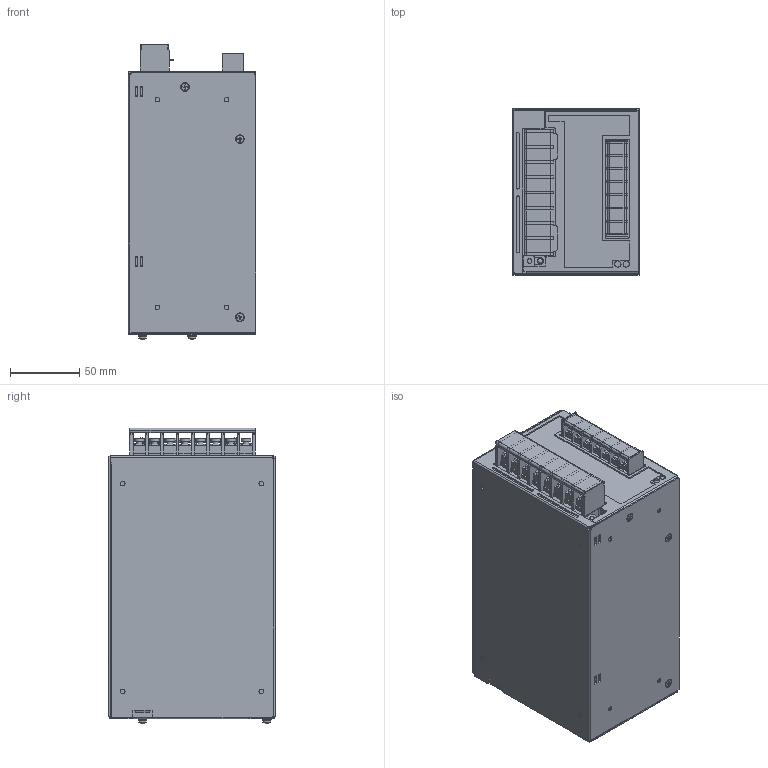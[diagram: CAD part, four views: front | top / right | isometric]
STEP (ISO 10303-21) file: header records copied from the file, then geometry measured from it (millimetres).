
FILE_DESCRIPTION (( 'STEP AP214' ), '1' );
FILE_NAME ('SWS600_OUTLINE.STEP', '2006-09-06T00:48:00', ( ' ' ), ( ' ' ), 'SwSTEP 2.0', 'SolidWorks 2006104', '' );
FILE_SCHEMA (( 'AUTOMOTIVE_DESIGN' ));
Length unit declared in the file: millimetre
Products named in the file (1): SWS600_OUTLINE
Bounding box: 92 x 120 x 213.46 mm (x, y, z)
Volume: 2105478.5 mm3; surface area: 141321.4 mm2
Topology: 5 solids, 5 shells, 1401 faces, 3865 edges, 2542 vertices
Faces by surface type: plane 859, cylinder 477, cone 54, bspline 11
Entity records: 60941 total; most frequent: CARTESIAN_POINT 9026, ORIENTED_EDGE 7718, DIRECTION 7508, EDGE_CURVE 3859, VECTOR 2668, LINE 2668, VERTEX_POINT 2542, AXIS2_PLACEMENT_3D 2420
